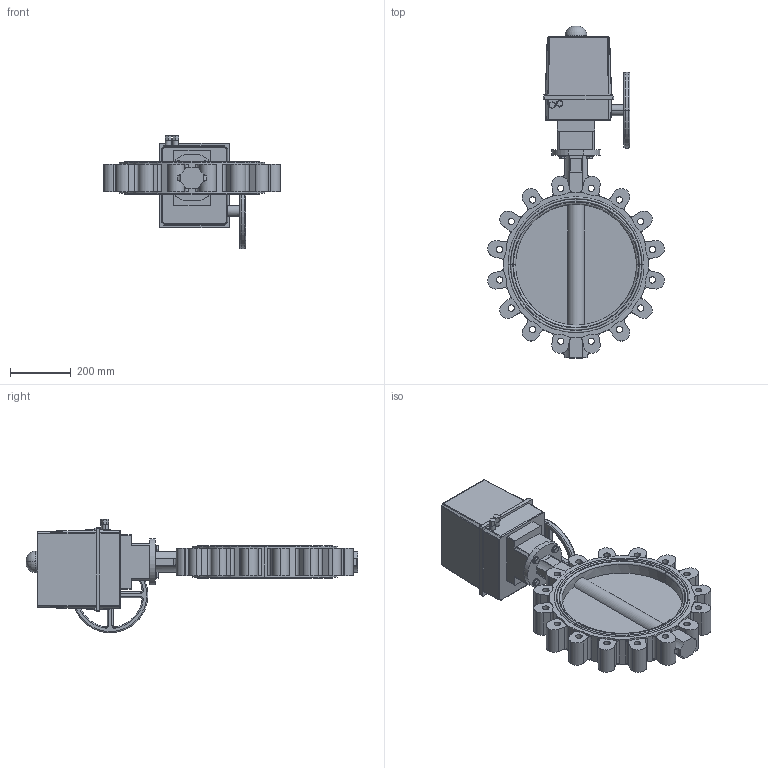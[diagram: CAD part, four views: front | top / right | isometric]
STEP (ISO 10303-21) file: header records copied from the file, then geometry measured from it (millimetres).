
FILE_DESCRIPTION (( 'STEP AP214' ), '1' );
FILE_NAME ('67671.step', '2020-10-26T06:45:05', ( '' ), ( '' ), 'SwSTEP 2.0', 'SolidWorks 2019', '' );
FILE_SCHEMA (( 'AUTOMOTIVE_DESIGN' ));
Length unit declared in the file: millimetre
Products named in the file (6): PSQ 1003_PSQ 1003-43-24VDC-F12; 67671; U-Scheibe DIN 125 A_M12; 6kt-Schr DIN 933_M12x35; TL20-0400_M01; Steckkupplung PSQ 503-1503_PSQ 503-1503 VK-27
Assembly tree (11 placements, depth 2):
  67671
    TL20-0400_M01
    PSQ 1003_PSQ 1003-43-24VDC-F12
    Steckkupplung PSQ 503-1503_PSQ 503-1503 VK-27
    6kt-Schr DIN 933_M12x35  x4
    U-Scheibe DIN 125 A_M12  x4
Bounding box: 584.62 x 1097 x 375 mm (x, y, z)
Volume: 30665545.6 mm3; surface area: 1605029.5 mm2
Topology: 11 solids, 11 shells, 973 faces, 2572 edges, 1628 vertices
Faces by surface type: cylinder 468, plane 378, torus 68, cone 43, sphere 16
Entity records: 31731 total; most frequent: CARTESIAN_POINT 5751, DIRECTION 5070, ORIENTED_EDGE 4688, EDGE_CURVE 2344, AXIS2_PLACEMENT_3D 1941, VERTEX_POINT 1508, LINE 1188, VECTOR 1188
